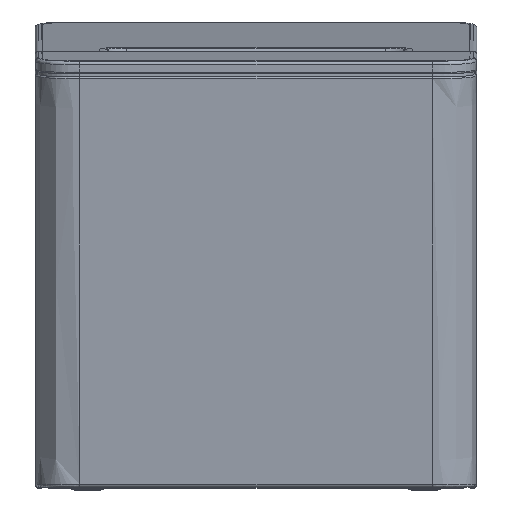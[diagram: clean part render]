
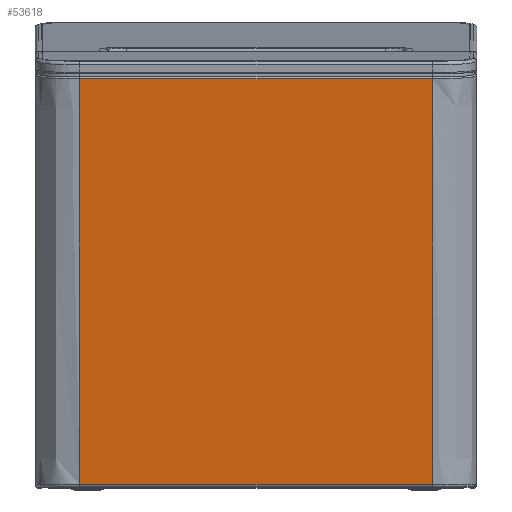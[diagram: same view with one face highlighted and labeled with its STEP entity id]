
A CAD part, top view. The second image highlights one B-rep face of the part: STEP entity #53618.
In plain terms, the highlighted planar face has unit normal (0, -0.125, 0.992).
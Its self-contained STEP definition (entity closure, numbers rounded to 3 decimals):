
#48187=DIRECTION('',(1.,0.,0.));
#48188=VECTOR('',#48187,111.792);
#48189=CARTESIAN_POINT('',(-15.246,-82.725,
124.21));
#48190=LINE('',#48189,#48188);
#48191=DIRECTION('',(0.,0.992,0.125));
#48192=VECTOR('',#48191,129.759);
#48193=CARTESIAN_POINT('',(-15.246,-82.725,
124.21));
#48194=LINE('',#48193,#48192);
#48195=DIRECTION('',(-1.,0.,0.));
#48196=VECTOR('',#48195,111.792);
#48197=CARTESIAN_POINT('',(96.546,46.01,140.474));
#48198=LINE('',#48197,#48196);
#48199=DIRECTION('',(0.,-0.992,-0.125));
#48200=VECTOR('',#48199,129.759);
#48201=CARTESIAN_POINT('',(96.546,46.01,140.474));
#48202=LINE('',#48201,#48200);
#51624=CARTESIAN_POINT('',(-15.246,-82.725,
124.21));
#51625=CARTESIAN_POINT('',(96.546,-82.725,
124.21));
#51626=VERTEX_POINT('',#51624);
#51627=VERTEX_POINT('',#51625);
#51964=CARTESIAN_POINT('',(96.546,46.01,140.474));
#51965=CARTESIAN_POINT('',(-15.246,46.01,
140.474));
#51966=VERTEX_POINT('',#51964);
#51967=VERTEX_POINT('',#51965);
#53604=CARTESIAN_POINT('',(110.65,-83.6,124.1));
#53605=DIRECTION('',(0.,-0.125,0.992));
#53606=DIRECTION('',(0.,0.992,0.125));
#53607=AXIS2_PLACEMENT_3D('',#53604,#53605,#53606);
#53608=PLANE('',#53607);
#53610=ORIENTED_EDGE('',*,*,#53609,.F.);
#53612=ORIENTED_EDGE('',*,*,#53611,.T.);
#53614=ORIENTED_EDGE('',*,*,#53613,.F.);
#53615=ORIENTED_EDGE('',*,*,#53595,.T.);
#53616=EDGE_LOOP('',(#53610,#53612,#53614,#53615));
#53617=FACE_OUTER_BOUND('',#53616,.F.);
#53595=EDGE_CURVE('',#51966,#51627,#48202,.T.);
#53609=EDGE_CURVE('',#51626,#51627,#48190,.T.);
#53611=EDGE_CURVE('',#51626,#51967,#48194,.T.);
#53613=EDGE_CURVE('',#51966,#51967,#48198,.T.);
#53618=ADVANCED_FACE('',(#53617),#53608,.T.);
